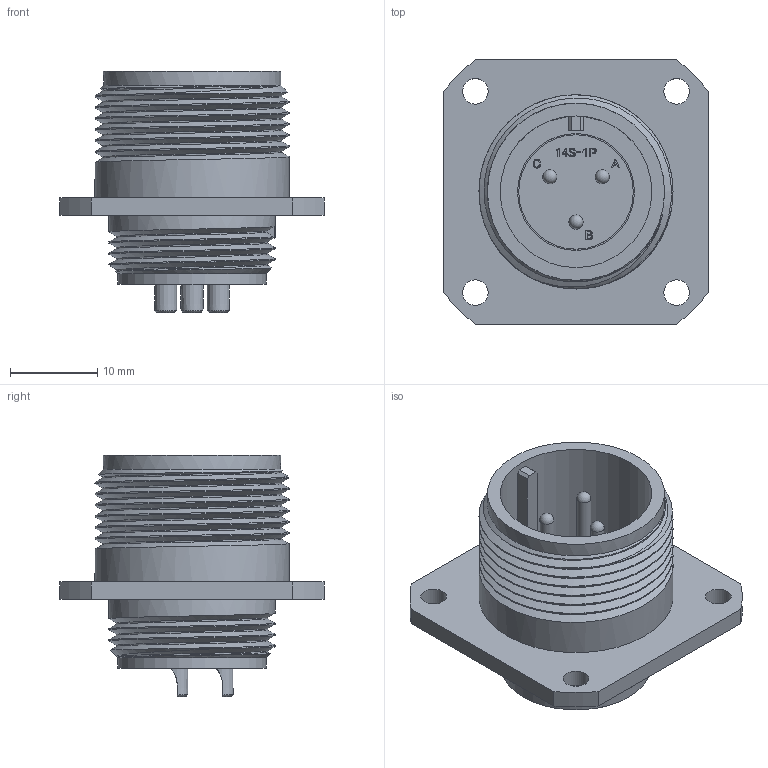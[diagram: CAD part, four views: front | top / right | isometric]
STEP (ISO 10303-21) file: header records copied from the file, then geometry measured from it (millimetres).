
FILE_DESCRIPTION (( 'STEP AP203' ), '1' );
FILE_NAME ('DMS3100A14S-1P(D263).STEP', '2022-01-26T03:03:09', ( '' ), ( '' ), 'SwSTEP 2.0', 'SolidWorks 2018', '' );
FILE_SCHEMA (( 'CONFIG_CONTROL_DESIGN' ));
Length unit declared in the file: millimetre
Products named in the file (1): DMS3100A14S-1P(D263)
Bounding box: 30.2 x 30.2 x 27.61 mm (x, y, z)
Volume: 4906.6 mm3; surface area: 5418.5 mm2
Topology: 1 solids, 1 shells, 312 faces, 822 edges, 545 vertices
Faces by surface type: plane 149, bspline 107, cylinder 45, cone 8, sphere 3
Full cylindrical faces by diameter (mm): 1.61 x3, 1.78 x3, 2.59 x3, 2.93 x4, 3.16 x3, 4.1 x3, 13.08 x1, 13.36 x1, 14.86 x1, 16.98 x1, 17.34 x1, 19.01 x2, 20.26 x1, 22.19 x5
Entity records: 13556 total; most frequent: CARTESIAN_POINT 6951, ORIENTED_EDGE 1484, DIRECTION 979, EDGE_CURVE 742, VERTEX_POINT 510, VECTOR 427, LINE 427, EDGE_LOOP 384
